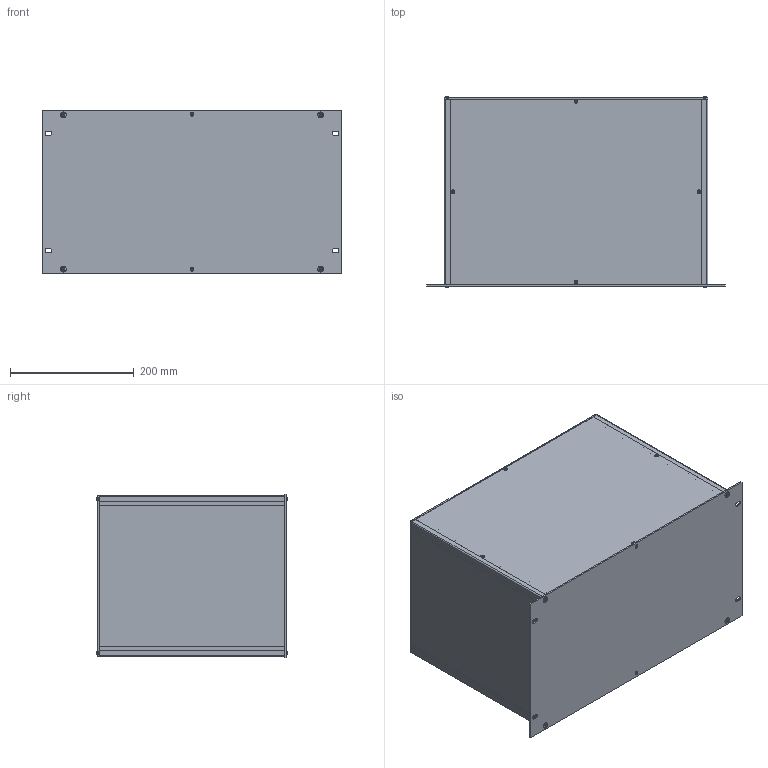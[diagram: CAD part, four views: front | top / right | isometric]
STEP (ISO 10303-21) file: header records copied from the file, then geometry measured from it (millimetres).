
FILE_DESCRIPTION(/* description */ (''),/* implementation_level */ '2;1');
FILE_NAME(/* name */ '//diskstation/Kunden/Gehäuse/Gehäuse/6HE/step/Zoll 6HE Rack Gehäuse Tiefe-300.step',/* time_stamp */ '2022-02-17T16:54:45+01:00',/* author */ (''),/* organization */ (''),/* preprocessor_version */ 'ST-DEVELOPER v18.1',/* originating_system */ 'Autodesk Translation Framework v10.10.0.1391',/* authorisation */ '');
FILE_SCHEMA (('AUTOMOTIVE_DESIGN { 1 0 10303 214 3 1 1 }'));
Length unit declared in the file: millimetre
Products named in the file (28): 6HE Gehäuse mit parametern; Gehäuse; Gehäuseprofil 1 unten links; Gehäuseprofil 2 oben rechts; Gehäuseprofil 1 unten rechts; Gehäuseprofil 2 oben links; Rückplatte; Deckel; Seitenteil links; Seitenteil rechts; Bodenplatte; Montageklotz Front/Deckel; Montageklotz Front/Boden; Montageklotz Rück/Deckel; Montageklotz Rück/Boden; Gewindestreifen; Frontplatte; Schrauben M5; Schraube Front; Schraube Front (1); Schraube Front (2); Schraube Front (3); Schraube Rück (1); Schraube Rück; Schraube Rück (2); Schraube Rück (3); Schrauben M3; HI_Senkschraube DIN 965 A v2 M3x5 24677.030.005(High)
Assembly tree (37 placements, depth 3):
  6HE Gehäuse mit parametern
    Gehäuse
      Gehäuseprofil 1 unten links
      Gehäuseprofil 2 oben rechts
      Gehäuseprofil 1 unten rechts
      Gehäuseprofil 2 oben links
      Rückplatte
      Deckel
      Seitenteil links
      Seitenteil rechts
      Bodenplatte
      Montageklotz Front/Deckel
      Montageklotz Front/Boden
      Montageklotz Rück/Deckel
      Montageklotz Rück/Boden
      Gewindestreifen  x2
    Frontplatte
    Schrauben M5
      Schraube Front
      Schraube Front (1)
      Schraube Front (2)
      Schraube Front (3)
      Schraube Rück (1)
      Schraube Rück
      Schraube Rück (2)
      Schraube Rück (3)
    Schrauben M3
      HI_Senkschraube DIN 965 A v2 M3x5 24677.030.005(High)  x10
Bounding box: 483 x 308.2 x 265 mm (x, y, z)
Volume: 1626990.2 mm3; surface area: 1397128.2 mm2
Topology: 34 solids, 34 shells, 874 faces, 2136 edges, 1330 vertices
Faces by surface type: cylinder 352, plane 342, cone 164, torus 8, bspline 8
Full cylindrical faces by diameter (mm): 2.529 x110, 3 x10, 3.2 x10, 4.234 x40, 5 x8, 5.2 x4, 5.3 x8, 5.6 x10, 9.5 x8
Entity records: 17235 total; most frequent: CARTESIAN_POINT 3138, DIRECTION 2890, ORIENTED_EDGE 2550, EDGE_CURVE 1275, AXIS2_PLACEMENT_3D 1090, VERTEX_POINT 798, EDGE_LOOP 761, LINE 710
